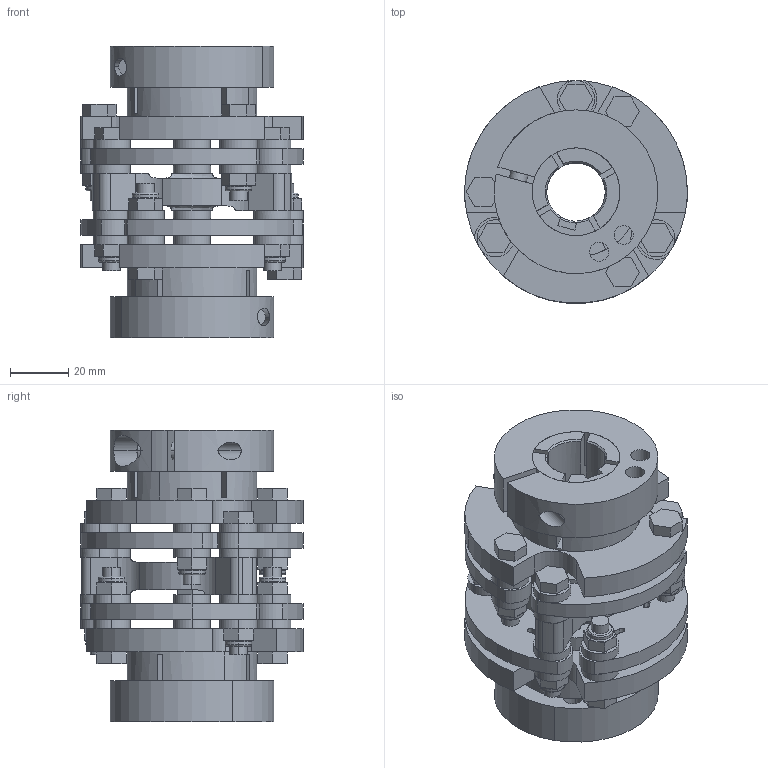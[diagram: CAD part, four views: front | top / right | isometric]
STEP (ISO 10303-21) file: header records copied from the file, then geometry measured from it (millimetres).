
FILE_DESCRIPTION (( 'STEP AP214' ), '1' );
FILE_NAME ('ZERO MAX-6P30C (20mm w key , 20mm w key).step', '2012-10-16T13:37:54', ( 'sysAdmin' ), ( 'SolidWorks' ), 'SwSTEP 2.0', 'SolidWorks 2012', '' );
FILE_SCHEMA (( 'AUTOMOTIVE_DESIGN' ));
Length unit declared in the file: inch
Products named in the file (4): ZERO MAX-6P30C (20mm w key , 20mm w key)_6P LH Center_6P30C LH CENTER; ZERO MAX-6P30C (20mm w key , 20mm w key)_Hub_Clamp_Style_6A30C-20mm kwy; ZERO MAX-6P30C (20mm w key , 20mm w key)_6P30C LH CENTER; ZERO MAX-6P30C (20mm w key , 20mm w key)
Assembly tree (4 placements, depth 3):
  ZERO MAX-6P30C (20mm w key , 20mm w key)
    ZERO MAX-6P30C (20mm w key , 20mm w key)_6P LH Center_6P30C LH CENTER
      ZERO MAX-6P30C (20mm w key , 20mm w key)_6P30C LH CENTER
    ZERO MAX-6P30C (20mm w key , 20mm w key)_Hub_Clamp_Style_6A30C-20mm kwy  x2
Bounding box: 76.2 x 76.2 x 99.57 mm (x, y, z)
Volume: 195949.5 mm3; surface area: 87642.1 mm2
Topology: 7 solids, 13 shells, 849 faces, 2140 edges, 1378 vertices
Faces by surface type: plane 419, cylinder 356, bspline 52, cone 18, torus 4
Entity records: 24777 total; most frequent: CARTESIAN_POINT 5450, DIRECTION 4136, ORIENTED_EDGE 3738, EDGE_CURVE 1869, AXIS2_PLACEMENT_3D 1657, VERTEX_POINT 1199, CIRCLE 953, EDGE_LOOP 848
